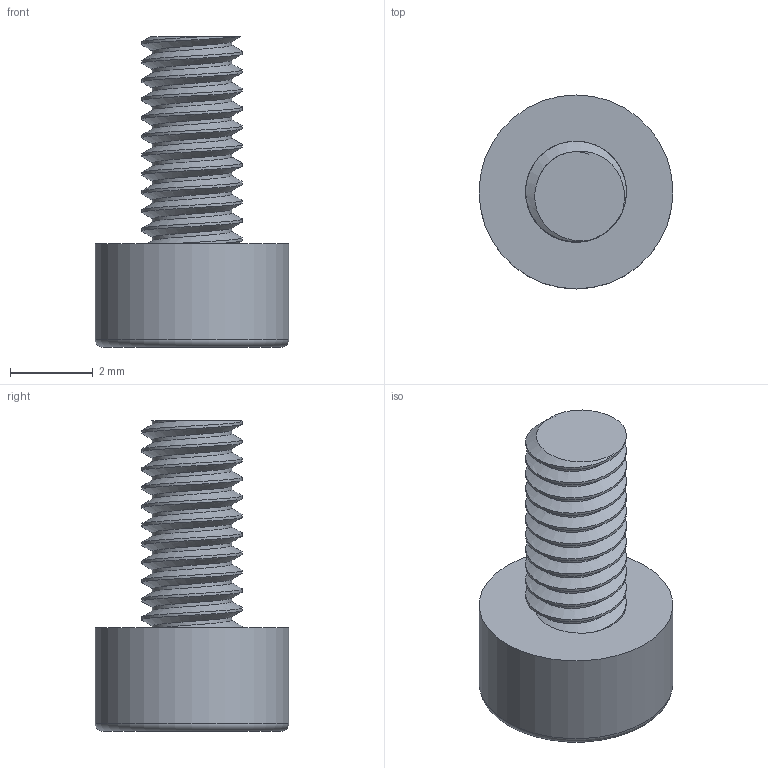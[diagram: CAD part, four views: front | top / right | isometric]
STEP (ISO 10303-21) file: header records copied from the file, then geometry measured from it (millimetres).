
FILE_DESCRIPTION(/* description */ (''),/* implementation_level */ '2;1');
FILE_NAME(/* name */ '2.5 screw 0.step',/* time_stamp */ '2024-05-03T10:56:29+02:00',/* author */ (''),/* organization */ (''),/* preprocessor_version */ 'ST-DEVELOPER v20',/* originating_system */ 'Autodesk Translation Framework v12.20.1.177',/* authorisation */ '');
FILE_SCHEMA (('AUTOMOTIVE_DESIGN { 1 0 10303 214 3 1 1 }'));
Length unit declared in the file: millimetre
Products named in the file (1): FusionComponent
Bounding box: 4.68 x 4.68 x 7.5 mm (x, y, z)
Volume: 57.3 mm3; surface area: 134.2 mm2
Topology: 1 solids, 1 shells, 38 faces, 101 edges, 67 vertices
Faces by surface type: cylinder 25, plane 10, bspline 2, torus 1
Full cylindrical faces by diameter (mm): 1.917 x4, 2.43 x6, 4.68 x1
Entity records: 2691 total; most frequent: CARTESIAN_POINT 1810, ORIENTED_EDGE 202, DIRECTION 131, EDGE_CURVE 101, VERTEX_POINT 67, B_SPLINE_CURVE_WITH_KNOTS 52, AXIS2_PLACEMENT_3D 45, LINE 41
